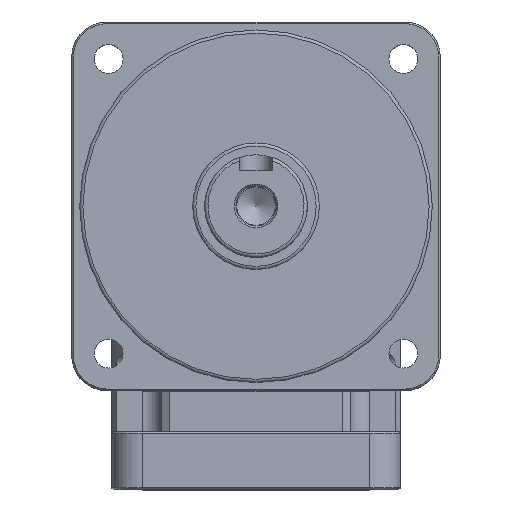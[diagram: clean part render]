
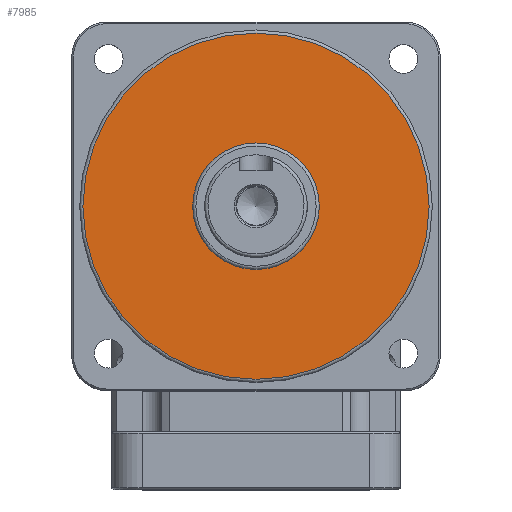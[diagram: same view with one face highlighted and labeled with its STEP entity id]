
A CAD part, top view. The second image highlights one B-rep face of the part: STEP entity #7985.
In plain terms, the highlighted planar face has unit normal (0, 0, 1).
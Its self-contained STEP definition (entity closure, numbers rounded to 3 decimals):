
#7954=CARTESIAN_POINT('',(-54.,0.,123.7));
#7955=VERTEX_POINT('',#7954);
#7956=CARTESIAN_POINT('',(0.,0.,123.7));
#7957=DIRECTION('',(0.0,0.0,-1.0));
#7958=DIRECTION('',(1.0,0.0,0.0));
#7959=AXIS2_PLACEMENT_3D('',#7956,#7957,#7958);
#7960=CIRCLE('',#7959,54.0);
#7961=EDGE_CURVE('',#7955,#7955,#7960,.T.);
#7966=CARTESIAN_POINT('',(0.,0.,123.7));
#7967=DIRECTION('',(0.0,0.0,1.0));
#7968=DIRECTION('',(1.0,0.0,0.0));
#7969=AXIS2_PLACEMENT_3D('',#7966,#7967,#7968);
#7970=PLANE('',#7969);
#7971=ORIENTED_EDGE('',*,*,#7961,.F.);
#7972=EDGE_LOOP('',(#7971));
#7973=FACE_OUTER_BOUND('',#7972,.T.);
#7974=CARTESIAN_POINT('',(-19.75,0.,123.7));
#7975=VERTEX_POINT('',#7974);
#7976=CARTESIAN_POINT('',(0.,0.,123.7));
#7977=DIRECTION('',(0.0,0.0,1.0));
#7978=DIRECTION('',(1.0,0.0,0.0));
#7979=AXIS2_PLACEMENT_3D('',#7976,#7977,#7978);
#7980=CIRCLE('',#7979,19.75);
#7981=EDGE_CURVE('',#7975,#7975,#7980,.T.);
#7982=ORIENTED_EDGE('',*,*,#7981,.F.);
#7983=EDGE_LOOP('',(#7982));
#7984=FACE_BOUND('',#7983,.T.);
#7985=ADVANCED_FACE('',(#7973,#7984),#7970,.T.);
